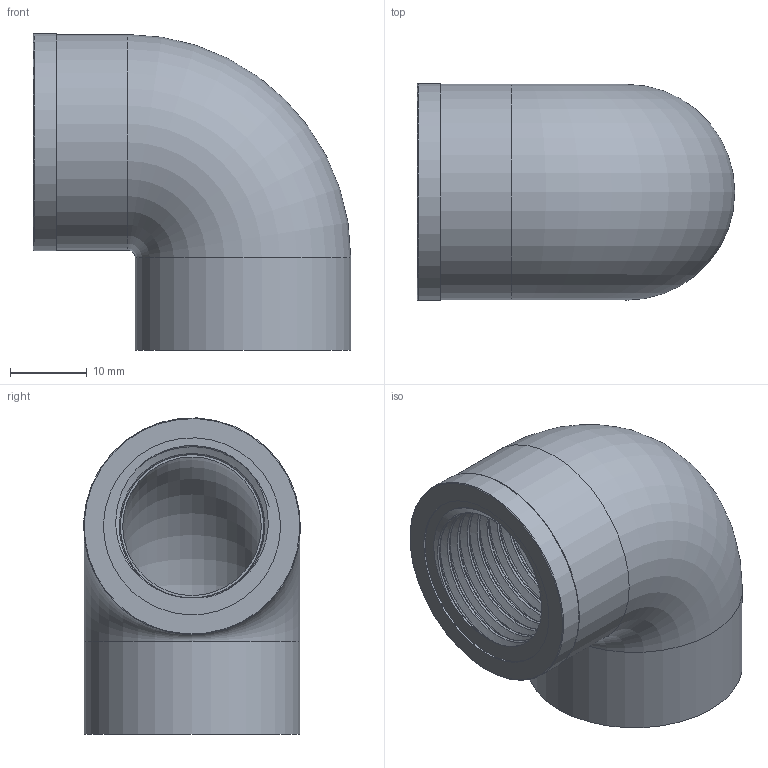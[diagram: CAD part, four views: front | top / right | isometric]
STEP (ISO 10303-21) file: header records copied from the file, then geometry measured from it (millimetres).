
FILE_DESCRIPTION(/* description */ (''),/* implementation_level */ '2;1');
FILE_NAME(/* name */ 'C:\Users\POLYPIPE\Desktop\DATASET INVENTOR\LIBRERIA EFFAST\RACCORDI 3DxWEB\RGR\3D_RGRGOR\3D_RGRGOR020B.stp',/* time_stamp */ '2018-01-19T17:46:28+01:00',/* author */ ('POLYPIPE'),/* organization */ (''),/* preprocessor_version */ 'ST-DEVELOPER v16.1',/* originating_system */ 'Autodesk Inventor 2016',/* authorisation */ '');
FILE_SCHEMA (('CONFIG_CONTROL_DESIGN'));
Length unit declared in the file: centimetre
Products named in the file (1): 3D_RGRGOR020B
Bounding box: 41.25 x 28.17 x 41.08 mm (x, y, z)
Volume: 15075.1 mm3; surface area: 8521.3 mm2
Topology: 1 solids, 1 shells, 21 faces, 41 edges, 26 vertices
Faces by surface type: plane 7, cylinder 6, bspline 5, torus 3
Full cylindrical faces by diameter (mm): 18.631 x1, 20 x1, 23 x1, 28 x2, 28.2 x1
Entity records: 3538 total; most frequent: CARTESIAN_POINT 3104, DIRECTION 71, ORIENTED_EDGE 62, EDGE_LOOP 36, AXIS2_PLACEMENT_3D 34, EDGE_CURVE 31, VERTEX_POINT 25, STYLED_ITEM 22
